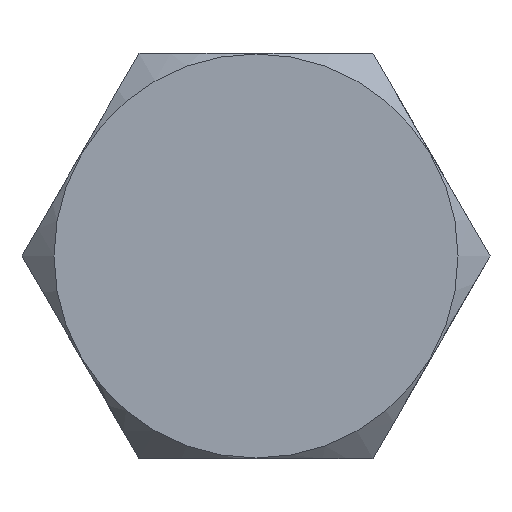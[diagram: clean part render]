
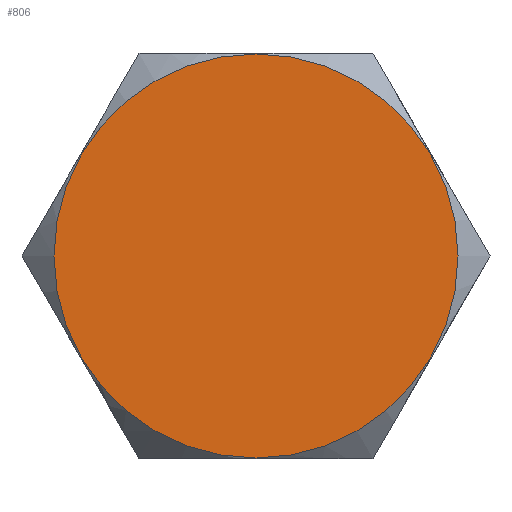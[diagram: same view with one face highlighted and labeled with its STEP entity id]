
A CAD part, front view. The second image highlights one B-rep face of the part: STEP entity #806.
In plain terms, the highlighted planar face has unit normal (0, -1, 0).
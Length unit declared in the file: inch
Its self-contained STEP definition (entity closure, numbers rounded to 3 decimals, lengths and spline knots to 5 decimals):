
#60=PLANE('',#920);
#124=FACE_OUTER_BOUND('',#175,.T.);
#175=EDGE_LOOP('',(#663));
#294=CIRCLE('',#919,0.311);
#376=VERTEX_POINT('',#1458);
#479=EDGE_CURVE('',#376,#376,#294,.T.);
#663=ORIENTED_EDGE('',*,*,#479,.F.);
#806=ADVANCED_FACE('',(#124),#60,.T.);
#919=AXIS2_PLACEMENT_3D('',#1459,#1116,#1117);
#920=AXIS2_PLACEMENT_3D('',#1461,#1119,#1120);
#1116=DIRECTION('center_axis',(0.,1.,0.));
#1117=DIRECTION('ref_axis',(0.,0.,1.));
#1119=DIRECTION('center_axis',(0.,-1.,0.));
#1120=DIRECTION('ref_axis',(0.,0.,-1.));
#1458=CARTESIAN_POINT('',(0.,0.,-0.311));
#1459=CARTESIAN_POINT('Origin',(0.,0.,0.));
#1461=CARTESIAN_POINT('Origin',(0.,0.,0.));
